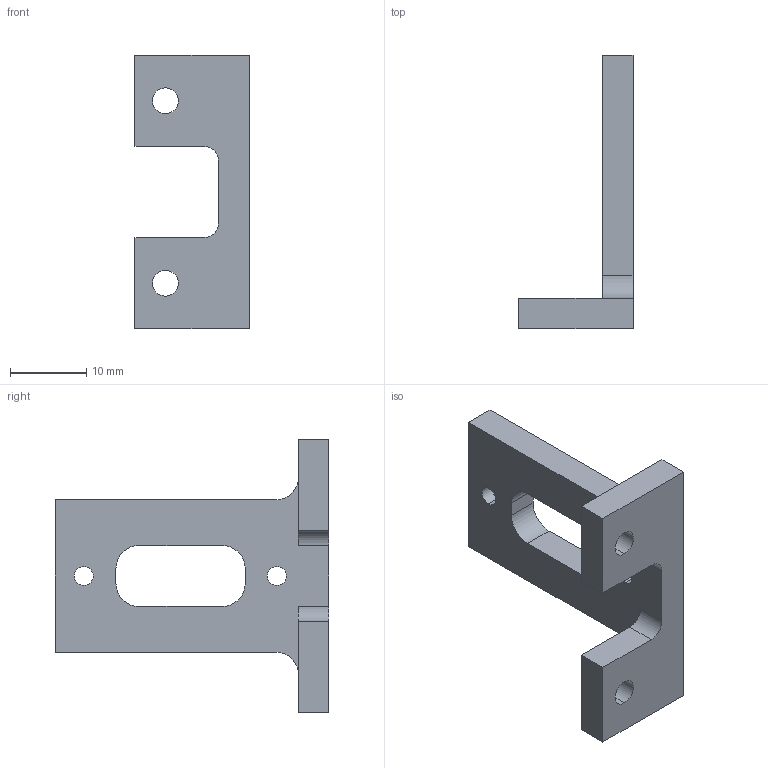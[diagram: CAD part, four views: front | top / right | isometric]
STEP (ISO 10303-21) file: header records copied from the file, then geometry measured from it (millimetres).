
FILE_DESCRIPTION (( 'STEP AP203' ), '1' );
FILE_NAME ('support-opb815.STEP', '2024-07-01T08:00:37', ( '' ), ( '' ), 'SwSTEP 2.0', 'SolidWorks 2021', '' );
FILE_SCHEMA (( 'CONFIG_CONTROL_DESIGN' ));
Length unit declared in the file: millimetre
Products named in the file (1): support-opb815
Bounding box: 15 x 36 x 36 mm (x, y, z)
Volume: 3560.5 mm3; surface area: 2844.5 mm2
Topology: 1 solids, 1 shells, 38 faces, 104 edges, 68 vertices
Faces by surface type: plane 18, cylinder 16, cone 4
Entity records: 1309 total; most frequent: DIRECTION 218, CARTESIAN_POINT 211, ORIENTED_EDGE 208, EDGE_CURVE 104, AXIS2_PLACEMENT_3D 75, VERTEX_POINT 68, VECTOR 68, LINE 68
